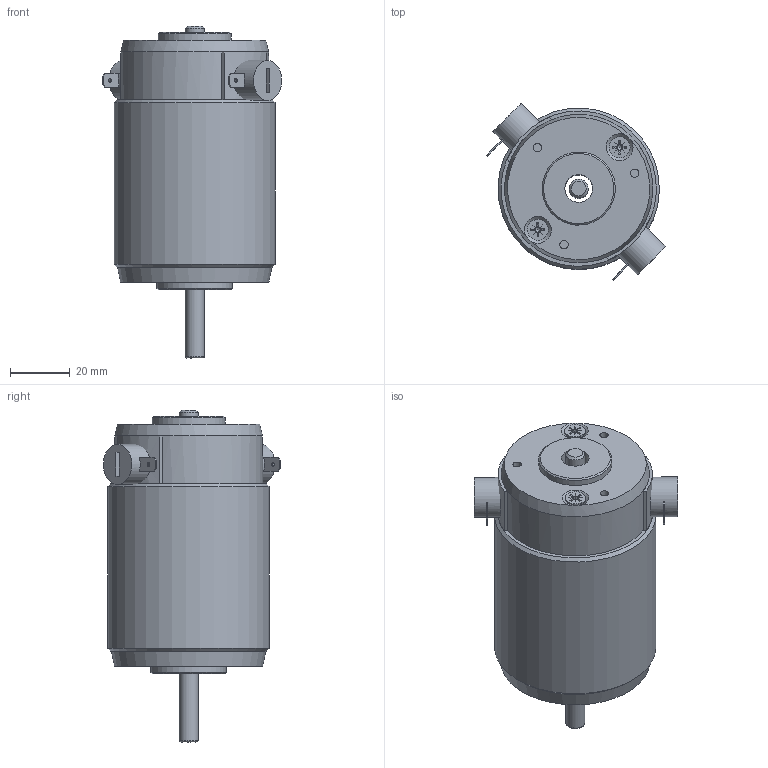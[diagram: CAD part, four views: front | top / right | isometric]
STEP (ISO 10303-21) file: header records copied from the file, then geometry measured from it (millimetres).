
FILE_DESCRIPTION(/* description */ (''),/* implementation_level */ '2;1');
FILE_NAME(/* name */ 'Z:\새 폴더\Compact Type RM5_3D\RM52_TYPE.stp',/* time_stamp */ '2022-04-05T16:40:48+09:00',/* author */ ('umbro'),/* organization */ (''),/* preprocessor_version */ 'ST-DEVELOPER v17',/* originating_system */ 'Autodesk Inventor 2019',/* authorisation */ '');
FILE_SCHEMA (('AUTOMOTIVE_DESIGN { 1 0 10303 214 3 1 1 }'));
Length unit declared in the file: millimetre
Products named in the file (11): RM52_TYPE; RM5_TYPE_REAR_HOUSING; RM5_REAR; BRUSH_HOLDER_ASSY; BRUSH_HOLDER_ASSY_MIR; RM5_BRUSH_COVER_RED; RM5_BRUSH_COVER_BRACK; AS 1427 Z - 미터 M4 x 50; RM5_FRONT; RM52_SHAFT; RM5_PIPE_pi54XL60
Assembly tree (11 placements, depth 3):
  RM52_TYPE
    RM5_TYPE_REAR_HOUSING
      RM5_REAR
      BRUSH_HOLDER_ASSY
      BRUSH_HOLDER_ASSY_MIR
      RM5_BRUSH_COVER_RED
      RM5_BRUSH_COVER_BRACK
    AS 1427 Z - 미터 M4 x 50  x2
    RM5_FRONT
    RM52_SHAFT
    RM5_PIPE_pi54XL60
Bounding box: 60.01 x 59.33 x 111.1 mm (x, y, z)
Volume: 71021.8 mm3; surface area: 40342.3 mm2
Topology: 10 solids, 10 shells, 189 faces, 474 edges, 315 vertices
Faces by surface type: plane 96, cylinder 43, cone 41, torus 9
Full cylindrical faces by diameter (mm): 1.3 x2, 2.8 x7, 3.571 x2, 4 x4, 4.2 x2, 5.76 x3, 6.336 x1, 7 x2, 9.3 x2, 11 x4, 13.4 x2, 24.5 x1, 25.4 x1, 46 x2, 49.6 x1, 54 x1
Entity records: 5261 total; most frequent: CARTESIAN_POINT 1201, DIRECTION 797, ORIENTED_EDGE 718, EDGE_CURVE 359, AXIS2_PLACEMENT_3D 316, VERTEX_POINT 240, EDGE_LOOP 189, LINE 165
